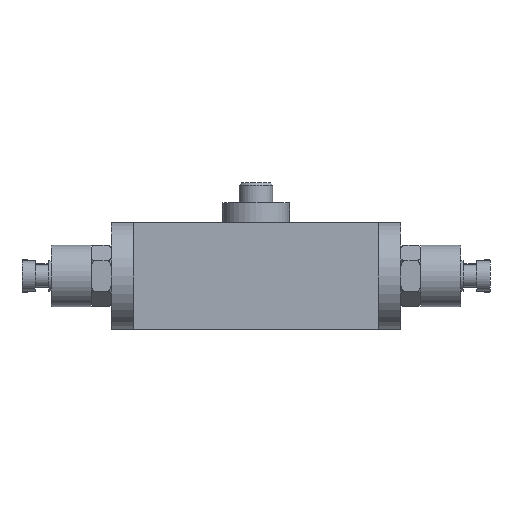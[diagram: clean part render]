
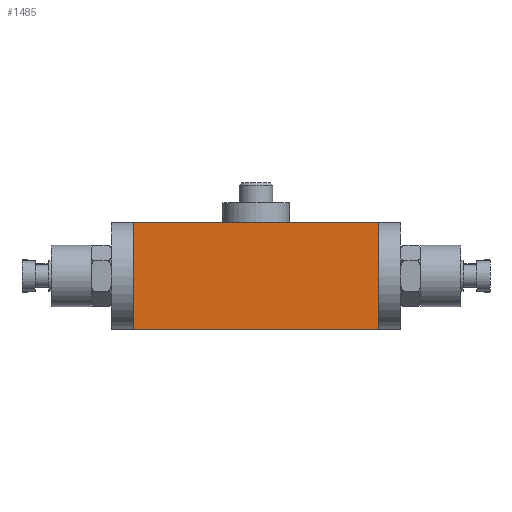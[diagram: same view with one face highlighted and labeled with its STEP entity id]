
A CAD part, front view. The second image highlights one B-rep face of the part: STEP entity #1485.
In plain terms, the highlighted planar face has unit normal (0, -1, 0).
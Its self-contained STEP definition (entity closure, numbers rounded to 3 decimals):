
#846=FACE_OUTER_BOUND('',#5341,.T.);
#1485=ADVANCED_FACE('',(#846),#2290,.F.);
#2290=PLANE('',#13001);
#2760=LINE('',#17844,#3649);
#2795=LINE('',#17976,#3684);
#2813=LINE('',#18061,#3702);
#2832=LINE('',#18682,#3721);
#3649=VECTOR('',#14272,1.);
#3684=VECTOR('',#14371,1.);
#3702=VECTOR('',#14439,1.);
#3721=VECTOR('',#14506,1.);
#5341=EDGE_LOOP('',(#6657,#6658,#6659,#6660));
#6657=ORIENTED_EDGE('',*,*,#10964,.T.);
#6658=ORIENTED_EDGE('',*,*,#10877,.F.);
#6659=ORIENTED_EDGE('',*,*,#10811,.F.);
#6660=ORIENTED_EDGE('',*,*,#10919,.T.);
#9627=VERTEX_POINT('',#17843);
#9628=VERTEX_POINT('',#17845);
#9691=VERTEX_POINT('',#17973);
#9734=VERTEX_POINT('',#18060);
#10811=EDGE_CURVE('',#9627,#9628,#2760,.T.);
#10877=EDGE_CURVE('',#9628,#9691,#2795,.T.);
#10919=EDGE_CURVE('',#9627,#9734,#2813,.T.);
#10964=EDGE_CURVE('',#9734,#9691,#2832,.T.);
#13001=AXIS2_PLACEMENT_3D('',#18686,#14511,#14512);
#14272=DIRECTION('',(1.,0.,0.));
#14371=DIRECTION('',(0.,0.,-1.));
#14439=DIRECTION('',(0.,0.,-1.));
#14506=DIRECTION('',(1.,0.,0.));
#14511=DIRECTION('',(0.,1.,0.));
#14512=DIRECTION('',(0.,0.,1.));
#17843=CARTESIAN_POINT('',(-86.5,-53.329,80.));
#17844=CARTESIAN_POINT('',(-86.5,-53.329,80.));
#17845=CARTESIAN_POINT('',(97.5,-53.329,80.));
#17973=CARTESIAN_POINT('',(97.5,-53.329,0.));
#17976=CARTESIAN_POINT('',(97.5,-53.329,80.));
#18060=CARTESIAN_POINT('',(-86.5,-53.329,0.));
#18061=CARTESIAN_POINT('',(-86.5,-53.329,80.));
#18682=CARTESIAN_POINT('',(-86.5,-53.329,0.));
#18686=CARTESIAN_POINT('',(-86.5,-53.329,80.));
